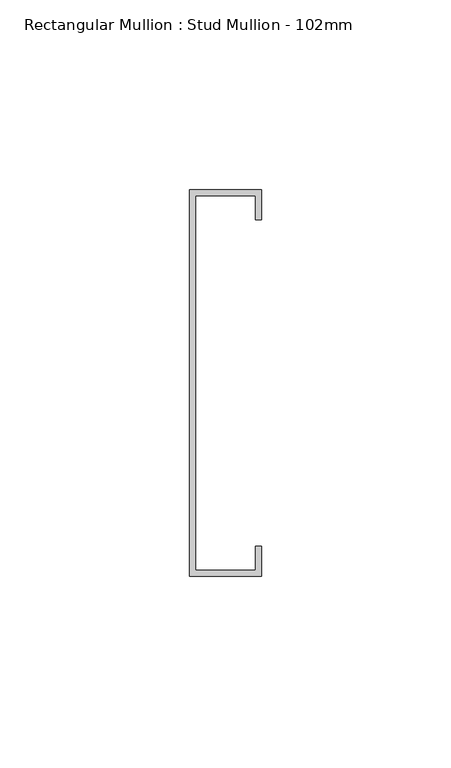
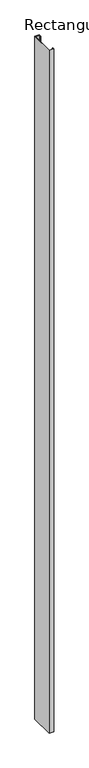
"""IFC4 building model written with IfcOpenShell, lengths in millimetres: member geometry, Rectangular Mullion : Stud Mullion - 102mm."""

from ifc_helpers import new_model, si_unit, frame, origin, place, context, project, spatial, polyline, outline, extrude, source, transform, mapped, element, save


def rectangular_mullion_stud_mullion_102mm_837ba7e5(model_context):
    return source(origin(), model_context, "Body", "SweptSolid", [
        extrude(outline(polyline([(0.0, 43.0), (-1.6, 43.0), (-1.6, 49.4), (-17.4, 49.4), (-17.4, -49.4), (-1.6, -49.4), (-1.6, -43.0), (0.0, -43.0), (0.0, -51.0), (-19.0, -51.0), (-19.0, 51.0), (0.0, 51.0), (0.0, 43.0)])), frame((0.0, 0.0, -3000.0), z_axis=(0.0, 0.0, 1.0), x_axis=(1.0, 0.0, 0.0)), (0.0, 0.0, 1.0), 3000.0),
    ])


if __name__ == "__main__":
    model = new_model("IFC4")
    model_context = context("Model", 3, world=origin())
    ifc_project = project(units=[si_unit("LENGTHUNIT", "METRE", prefix="MILLI")], contexts=[model_context])
    site = spatial("IfcSite", under=ifc_project)
    building = spatial("IfcBuilding", under=site)
    placement = place(None, origin())
    rectangular_mullion_stud_mullion_102mm_shape = rectangular_mullion_stud_mullion_102mm_837ba7e5(model_context)
    element("IfcMember", 1, ObjectType="Rectangular Mullion : Stud Mullion - 102mm", at=placement, inside=building, context=model_context, shape_type="MappedRepresentation", body=[
        mapped(rectangular_mullion_stud_mullion_102mm_shape, transform((0.0, 0.0, 0.0), x_axis=(1.0, 0.0, 0.0), y_axis=(0.0, 1.0, 0.0), z_axis=(0.0, 0.0, 1.0))),
    ])
    save(model, "model.ifc")
